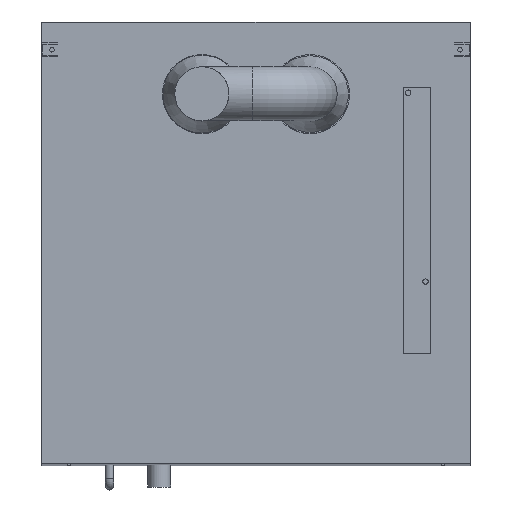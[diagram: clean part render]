
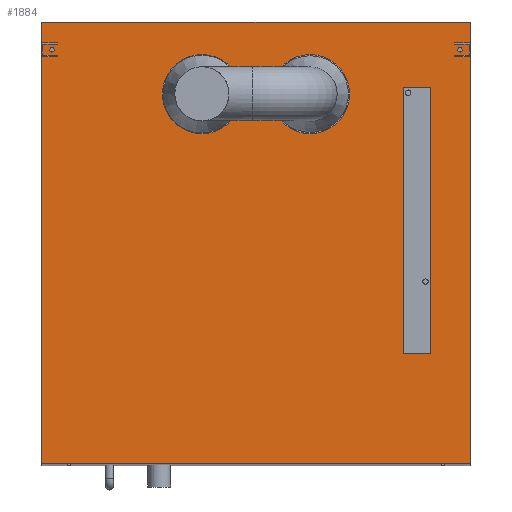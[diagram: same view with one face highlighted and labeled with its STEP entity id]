
A CAD part, top view. The second image highlights one B-rep face of the part: STEP entity #1884.
In plain terms, the highlighted planar face has unit normal (0, 0, 1).
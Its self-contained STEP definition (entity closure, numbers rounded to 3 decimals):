
#27=LINE('',#2488,#159);
#28=LINE('',#2491,#160);
#29=LINE('',#2493,#161);
#30=LINE('',#2495,#162);
#31=LINE('',#2496,#163);
#32=LINE('',#2499,#164);
#33=LINE('',#2501,#165);
#34=LINE('',#2503,#166);
#35=LINE('',#2505,#167);
#36=LINE('',#2507,#168);
#37=LINE('',#2509,#169);
#38=LINE('',#2511,#170);
#39=LINE('',#2513,#171);
#40=LINE('',#2515,#172);
#41=LINE('',#2517,#173);
#42=LINE('',#2519,#174);
#43=LINE('',#2521,#175);
#44=LINE('',#2523,#176);
#45=LINE('',#2525,#177);
#46=LINE('',#2527,#178);
#47=LINE('',#2529,#179);
#48=LINE('',#2531,#180);
#49=LINE('',#2533,#181);
#50=LINE('',#2535,#182);
#159=VECTOR('',#2117,1000.);
#160=VECTOR('',#2118,1000.);
#161=VECTOR('',#2119,1000.);
#162=VECTOR('',#2120,1000.);
#163=VECTOR('',#2121,1000.);
#164=VECTOR('',#2122,1000.);
#165=VECTOR('',#2123,1000.);
#166=VECTOR('',#2124,1000.);
#167=VECTOR('',#2125,1000.);
#168=VECTOR('',#2126,1000.);
#169=VECTOR('',#2127,1000.);
#170=VECTOR('',#2128,1000.);
#171=VECTOR('',#2129,1000.);
#172=VECTOR('',#2130,1000.);
#173=VECTOR('',#2131,1000.);
#174=VECTOR('',#2132,1000.);
#175=VECTOR('',#2133,1000.);
#176=VECTOR('',#2134,1000.);
#177=VECTOR('',#2135,1000.);
#178=VECTOR('',#2136,1000.);
#179=VECTOR('',#2137,1000.);
#180=VECTOR('',#2138,1000.);
#181=VECTOR('',#2139,1000.);
#182=VECTOR('',#2140,1000.);
#313=ORIENTED_EDGE('',*,*,#650,.T.);
#314=ORIENTED_EDGE('',*,*,#651,.T.);
#315=ORIENTED_EDGE('',*,*,#652,.T.);
#316=ORIENTED_EDGE('',*,*,#653,.T.);
#317=ORIENTED_EDGE('',*,*,#654,.F.);
#318=ORIENTED_EDGE('',*,*,#655,.F.);
#319=ORIENTED_EDGE('',*,*,#656,.F.);
#320=ORIENTED_EDGE('',*,*,#657,.F.);
#321=ORIENTED_EDGE('',*,*,#658,.T.);
#322=ORIENTED_EDGE('',*,*,#659,.F.);
#323=ORIENTED_EDGE('',*,*,#660,.T.);
#324=ORIENTED_EDGE('',*,*,#661,.T.);
#325=ORIENTED_EDGE('',*,*,#662,.T.);
#326=ORIENTED_EDGE('',*,*,#663,.T.);
#327=ORIENTED_EDGE('',*,*,#664,.T.);
#328=ORIENTED_EDGE('',*,*,#665,.T.);
#329=ORIENTED_EDGE('',*,*,#666,.T.);
#330=ORIENTED_EDGE('',*,*,#667,.T.);
#331=ORIENTED_EDGE('',*,*,#668,.T.);
#332=ORIENTED_EDGE('',*,*,#669,.T.);
#333=ORIENTED_EDGE('',*,*,#670,.F.);
#334=ORIENTED_EDGE('',*,*,#671,.F.);
#335=ORIENTED_EDGE('',*,*,#672,.T.);
#336=ORIENTED_EDGE('',*,*,#673,.T.);
#337=ORIENTED_EDGE('',*,*,#674,.T.);
#338=ORIENTED_EDGE('',*,*,#675,.T.);
#339=ORIENTED_EDGE('',*,*,#676,.T.);
#340=ORIENTED_EDGE('',*,*,#677,.T.);
#650=EDGE_CURVE('',#819,#819,#944,.T.);
#651=EDGE_CURVE('',#820,#820,#945,.T.);
#652=EDGE_CURVE('',#821,#821,#946,.T.);
#653=EDGE_CURVE('',#822,#822,#947,.T.);
#654=EDGE_CURVE('',#823,#824,#27,.T.);
#655=EDGE_CURVE('',#825,#823,#28,.T.);
#656=EDGE_CURVE('',#826,#825,#29,.T.);
#657=EDGE_CURVE('',#824,#826,#30,.T.);
#658=EDGE_CURVE('',#827,#828,#31,.T.);
#659=EDGE_CURVE('',#829,#828,#32,.T.);
#660=EDGE_CURVE('',#829,#830,#33,.T.);
#661=EDGE_CURVE('',#830,#831,#34,.T.);
#662=EDGE_CURVE('',#831,#832,#35,.T.);
#663=EDGE_CURVE('',#832,#833,#36,.T.);
#664=EDGE_CURVE('',#833,#834,#37,.T.);
#665=EDGE_CURVE('',#834,#835,#38,.T.);
#666=EDGE_CURVE('',#835,#836,#39,.T.);
#667=EDGE_CURVE('',#836,#837,#40,.T.);
#668=EDGE_CURVE('',#837,#838,#41,.T.);
#669=EDGE_CURVE('',#838,#839,#42,.T.);
#670=EDGE_CURVE('',#840,#839,#43,.T.);
#671=EDGE_CURVE('',#841,#840,#44,.T.);
#672=EDGE_CURVE('',#841,#842,#45,.T.);
#673=EDGE_CURVE('',#842,#843,#46,.T.);
#674=EDGE_CURVE('',#843,#844,#47,.T.);
#675=EDGE_CURVE('',#844,#845,#48,.T.);
#676=EDGE_CURVE('',#845,#846,#49,.T.);
#677=EDGE_CURVE('',#846,#827,#50,.T.);
#819=VERTEX_POINT('',#2481);
#820=VERTEX_POINT('',#2483);
#821=VERTEX_POINT('',#2485);
#822=VERTEX_POINT('',#2487);
#823=VERTEX_POINT('',#2489);
#824=VERTEX_POINT('',#2490);
#825=VERTEX_POINT('',#2492);
#826=VERTEX_POINT('',#2494);
#827=VERTEX_POINT('',#2497);
#828=VERTEX_POINT('',#2498);
#829=VERTEX_POINT('',#2500);
#830=VERTEX_POINT('',#2502);
#831=VERTEX_POINT('',#2504);
#832=VERTEX_POINT('',#2506);
#833=VERTEX_POINT('',#2508);
#834=VERTEX_POINT('',#2510);
#835=VERTEX_POINT('',#2512);
#836=VERTEX_POINT('',#2514);
#837=VERTEX_POINT('',#2516);
#838=VERTEX_POINT('',#2518);
#839=VERTEX_POINT('',#2520);
#840=VERTEX_POINT('',#2522);
#841=VERTEX_POINT('',#2524);
#842=VERTEX_POINT('',#2526);
#843=VERTEX_POINT('',#2528);
#844=VERTEX_POINT('',#2530);
#845=VERTEX_POINT('',#2532);
#846=VERTEX_POINT('',#2534);
#944=CIRCLE('',#1978,54.75);
#945=CIRCLE('',#1979,54.75);
#946=CIRCLE('',#1980,3.1);
#947=CIRCLE('',#1981,3.1);
#980=EDGE_LOOP('',(#313));
#981=EDGE_LOOP('',(#314));
#982=EDGE_LOOP('',(#315));
#983=EDGE_LOOP('',(#316));
#984=EDGE_LOOP('',(#317,#318,#319,#320));
#985=EDGE_LOOP('',(#321,#322,#323,#324,#325,#326,#327,#328,#329,#330,#331,
#332,#333,#334,#335,#336,#337,#338,#339,#340));
#1106=FACE_BOUND('',#980,.T.);
#1107=FACE_BOUND('',#981,.T.);
#1108=FACE_BOUND('',#982,.T.);
#1109=FACE_BOUND('',#983,.T.);
#1110=FACE_BOUND('',#984,.T.);
#1111=FACE_BOUND('',#985,.T.);
#1229=PLANE('',#1977);
#1884=ADVANCED_FACE('',(#1106,#1107,#1108,#1109,#1110,#1111),#1229,.F.);
#1977=AXIS2_PLACEMENT_3D('',#2479,#2107,#2108);
#1978=AXIS2_PLACEMENT_3D('',#2480,#2109,#2110);
#1979=AXIS2_PLACEMENT_3D('',#2482,#2111,#2112);
#1980=AXIS2_PLACEMENT_3D('',#2484,#2113,#2114);
#1981=AXIS2_PLACEMENT_3D('',#2486,#2115,#2116);
#2107=DIRECTION('',(0.,0.,-1.));
#2108=DIRECTION('',(-1.,0.,0.));
#2109=DIRECTION('',(0.,0.,-1.));
#2110=DIRECTION('',(-1.,0.,0.));
#2111=DIRECTION('',(0.,0.,-1.));
#2112=DIRECTION('',(-1.,0.,0.));
#2113=DIRECTION('',(0.,0.,-1.));
#2114=DIRECTION('',(1.,0.,0.));
#2115=DIRECTION('',(0.,0.,-1.));
#2116=DIRECTION('',(1.,0.,0.));
#2117=DIRECTION('',(1.,0.,0.));
#2118=DIRECTION('',(0.,-1.,0.));
#2119=DIRECTION('',(-1.,0.,0.));
#2120=DIRECTION('',(0.,1.,0.));
#2121=DIRECTION('',(1.,0.,0.));
#2122=DIRECTION('',(0.,-1.,0.));
#2123=DIRECTION('',(-1.,0.,0.));
#2124=DIRECTION('',(0.,-1.,0.));
#2125=DIRECTION('',(1.,0.,0.));
#2126=DIRECTION('',(0.,-1.,0.));
#2127=DIRECTION('',(-1.,0.,0.));
#2128=DIRECTION('',(0.,-1.,0.));
#2129=DIRECTION('',(1.,0.,0.));
#2130=DIRECTION('',(0.,-1.,0.));
#2131=DIRECTION('',(-1.,0.,0.));
#2132=DIRECTION('',(0.,-1.,0.));
#2133=DIRECTION('',(-1.,0.,0.));
#2134=DIRECTION('',(0.,-1.,0.));
#2135=DIRECTION('',(-1.,0.,0.));
#2136=DIRECTION('',(0.,1.,0.));
#2137=DIRECTION('',(1.,0.,0.));
#2138=DIRECTION('',(0.,1.,0.));
#2139=DIRECTION('',(-1.,0.,0.));
#2140=DIRECTION('',(0.,1.,0.));
#2479=CARTESIAN_POINT('',(594.,612.,2045.));
#2480=CARTESIAN_POINT('',(222.,512.,2045.));
#2481=CARTESIAN_POINT('',(167.25,512.,2045.));
#2482=CARTESIAN_POINT('',(372.,512.,2045.));
#2483=CARTESIAN_POINT('',(317.25,512.,2045.));
#2484=CARTESIAN_POINT('',(14.,573.5,2045.));
#2485=CARTESIAN_POINT('',(17.1,573.5,2045.));
#2486=CARTESIAN_POINT('',(580.,573.5,2045.));
#2487=CARTESIAN_POINT('',(583.1,573.5,2045.));
#2488=CARTESIAN_POINT('',(501.,152.,2045.));
#2489=CARTESIAN_POINT('',(501.,152.,2045.));
#2490=CARTESIAN_POINT('',(539.,152.,2045.));
#2491=CARTESIAN_POINT('',(501.,521.,2045.));
#2492=CARTESIAN_POINT('',(501.,521.,2045.));
#2493=CARTESIAN_POINT('',(539.,521.,2045.));
#2494=CARTESIAN_POINT('',(539.,521.,2045.));
#2495=CARTESIAN_POINT('',(539.,152.,2045.));
#2496=CARTESIAN_POINT('',(594.,583.,2045.));
#2497=CARTESIAN_POINT('',(572.5,583.,2045.));
#2498=CARTESIAN_POINT('',(594.,583.,2045.));
#2499=CARTESIAN_POINT('',(594.,612.,2045.));
#2500=CARTESIAN_POINT('',(594.,612.,2045.));
#2501=CARTESIAN_POINT('',(594.,612.,2045.));
#2502=CARTESIAN_POINT('',(0.,612.,2045.));
#2503=CARTESIAN_POINT('',(0.,612.,2045.));
#2504=CARTESIAN_POINT('',(0.,583.,2045.));
#2505=CARTESIAN_POINT('',(594.,583.,2045.));
#2506=CARTESIAN_POINT('',(21.5,583.,2045.));
#2507=CARTESIAN_POINT('',(21.5,612.,2045.));
#2508=CARTESIAN_POINT('',(21.5,581.,2045.));
#2509=CARTESIAN_POINT('',(21.5,581.,2045.));
#2510=CARTESIAN_POINT('',(1.5,581.,2045.));
#2511=CARTESIAN_POINT('',(1.5,581.,2045.));
#2512=CARTESIAN_POINT('',(1.5,566.,2045.));
#2513=CARTESIAN_POINT('',(1.5,566.,2045.));
#2514=CARTESIAN_POINT('',(21.5,566.,2045.));
#2515=CARTESIAN_POINT('',(21.5,566.,2045.));
#2516=CARTESIAN_POINT('',(21.5,564.,2045.));
#2517=CARTESIAN_POINT('',(21.5,564.,2045.));
#2518=CARTESIAN_POINT('',(0.,564.,2045.));
#2519=CARTESIAN_POINT('',(0.,612.,2045.));
#2520=CARTESIAN_POINT('',(0.,0.,2045.));
#2521=CARTESIAN_POINT('',(594.,0.,2045.));
#2522=CARTESIAN_POINT('',(594.,0.,2045.));
#2523=CARTESIAN_POINT('',(594.,612.,2045.));
#2524=CARTESIAN_POINT('',(594.,564.,2045.));
#2525=CARTESIAN_POINT('',(594.,564.,2045.));
#2526=CARTESIAN_POINT('',(572.5,564.,2045.));
#2527=CARTESIAN_POINT('',(572.5,566.,2045.));
#2528=CARTESIAN_POINT('',(572.5,566.,2045.));
#2529=CARTESIAN_POINT('',(594.,566.,2045.));
#2530=CARTESIAN_POINT('',(592.5,566.,2045.));
#2531=CARTESIAN_POINT('',(592.5,581.,2045.));
#2532=CARTESIAN_POINT('',(592.5,581.,2045.));
#2533=CARTESIAN_POINT('',(594.,581.,2045.));
#2534=CARTESIAN_POINT('',(572.5,581.,2045.));
#2535=CARTESIAN_POINT('',(572.5,612.,2045.));
